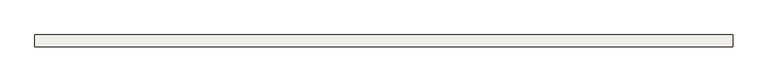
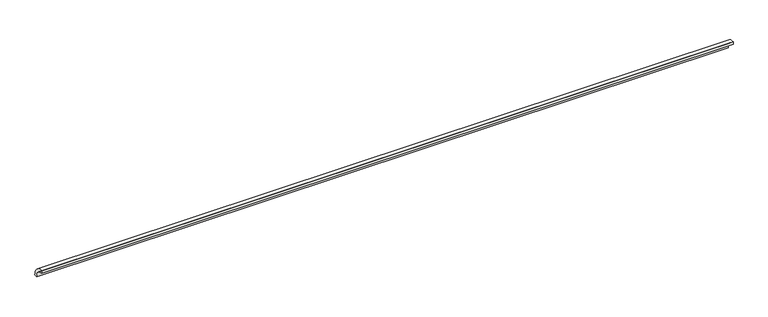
"""IFC4 building model written with IfcOpenShell, lengths in millimetres: slab geometry, ROSA GRES_138 : Pieza 138_Aqua_Plomo_Anti-Slip."""

from ifc_helpers import new_model, si_unit, point, frame, frame_2d, origin, origin_2d, place, context, project, spatial, polyline, circle_curve, trimmed, segment, composite_curve, outline, extrude, source, transform, mapped, element, save


def slab_76e353b1(model_context):
    return source(origin(), model_context, "Body", "SweptSolid", [
        extrude(outline(composite_curve([segment(trimmed(circle_curve(origin_2d(), 40.0), [point((0.0, 40.0))], [point((40.0, 0.0))], False, "CARTESIAN"), True, "CONTINUOUS"), segment(polyline([(40.0, 0.0), (30.0265886, 0.0)]), True, "CONTINUOUS"), segment(trimmed(circle_curve(frame_2d((0.0044453, 0.0044453)), 30.0221435), [point((30.0265886, 0.0))], [point((0.0, 30.0265886))], True, "CARTESIAN"), True, "CONTINUOUS"), segment(polyline([(0.0, 30.0265886), (0.0, 40.0)]), True, "CONTINUOUS")], self_intersect=False)), frame((0.0, 0.0, 0.0), z_axis=(1.0, 0.0, 0.0), x_axis=(0.0, 1.0, 0.0)), (0.0, 0.0, 1.0), 2360.0),
    ])


if __name__ == "__main__":
    model = new_model("IFC4")
    model_context = context("Model", 3, world=origin())
    ifc_project = project(units=[si_unit("LENGTHUNIT", "METRE", prefix="MILLI")], contexts=[model_context])
    site = spatial("IfcSite", under=ifc_project)
    building = spatial("IfcBuilding", under=site)
    placement = place(None, origin())
    slab_shape = slab_76e353b1(model_context)
    element("IfcSlab", 1, ObjectType="ROSA GRES_138 : Pieza 138_Aqua_Plomo_Anti-Slip", at=placement, inside=building, context=model_context, shape_type="MappedRepresentation", body=[
        mapped(slab_shape, transform((0.0, 0.0, 0.0), x_axis=(1.0, 0.0, 0.0), y_axis=(0.0, 1.0, 0.0), z_axis=(0.0, 0.0, 1.0))),
    ])
    save(model, "model.ifc")
